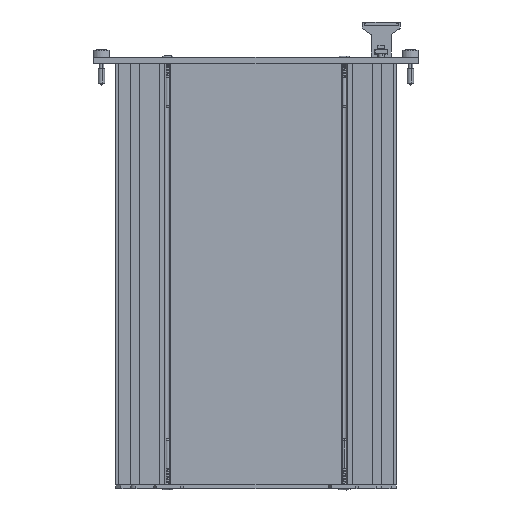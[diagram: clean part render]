
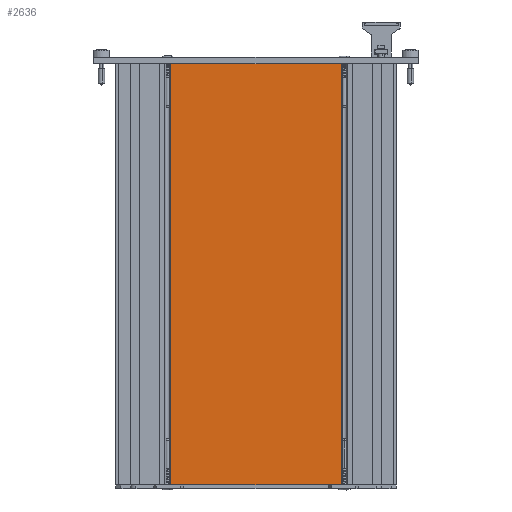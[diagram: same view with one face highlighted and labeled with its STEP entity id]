
A CAD part, left-side view. The second image highlights one B-rep face of the part: STEP entity #2636.
In plain terms, the highlighted planar face has unit normal (-1, 0, 0) as drawn and (0, 1, 0) by its records, which use the part's own axes.
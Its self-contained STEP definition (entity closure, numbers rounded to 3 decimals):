
#1540 = FACE_OUTER_BOUND ( 'NONE', #2025, .T. ) ;
#2025 = EDGE_LOOP ( 'NONE', ( #30623, #36381, #4071, #32341 ) ) ;
#2559 = EDGE_CURVE ( 'NONE', #8761, #32517, #13988, .T. ) ;
#2636 = ADVANCED_FACE ( 'NONE', ( #1540 ), #25987, .F. ) ;
#3135 = EDGE_CURVE ( 'NONE', #9103, #8407, #32726, .T. ) ;
#3200 = DIRECTION ( 'NONE',  ( 0., 0., -1. ) ) ;
#4071 = ORIENTED_EDGE ( 'NONE', *, *, #22570, .F. ) ;
#6095 = VECTOR ( 'NONE', #31614, 1000. ) ;
#6241 = CARTESIAN_POINT ( 'NONE',  ( 2663.589, 1924.192, 83.5 ) ) ;
#7749 = VECTOR ( 'NONE', #3200, 1000. ) ;
#8037 = CARTESIAN_POINT ( 'NONE',  ( 2663.589, 1924.192, -83.5 ) ) ;
#8407 = VERTEX_POINT ( 'NONE', #8037 ) ;
#8761 = VERTEX_POINT ( 'NONE', #34989 ) ;
#9103 = VERTEX_POINT ( 'NONE', #25444 ) ;
#11178 = DIRECTION ( 'NONE',  ( -1., 0., 0. ) ) ;
#13988 = LINE ( 'NONE', #28754, #7749 ) ;
#14639 = DIRECTION ( 'NONE',  ( 0., 0., -1. ) ) ;
#15923 = LINE ( 'NONE', #36850, #6095 ) ;
#16220 = VECTOR ( 'NONE', #11178, 1000. ) ;
#20327 = DIRECTION ( 'NONE',  ( 0., 0., -1. ) ) ;
#22570 = EDGE_CURVE ( 'NONE', #8761, #9103, #15923, .T. ) ;
#25379 = CARTESIAN_POINT ( 'NONE',  ( 2731.062, 1924.192, -83.5 ) ) ;
#25444 = CARTESIAN_POINT ( 'NONE',  ( 2663.589, 1924.192, 83.5 ) ) ;
#25549 = CARTESIAN_POINT ( 'NONE',  ( 2731.062, 1924.192, -83.5 ) ) ;
#25621 = DIRECTION ( 'NONE',  ( 0., -1., 0. ) ) ;
#25987 = PLANE ( 'NONE',  #27086 ) ;
#27086 = AXIS2_PLACEMENT_3D ( 'NONE', #34130, #25621, #14639 ) ;
#28754 = CARTESIAN_POINT ( 'NONE',  ( 2731.062, 1924.192, 83.5 ) ) ;
#30623 = ORIENTED_EDGE ( 'NONE', *, *, #33178, .T. ) ;
#31407 = VECTOR ( 'NONE', #20327, 1000. ) ;
#31614 = DIRECTION ( 'NONE',  ( -1., 0., 0. ) ) ;
#32341 = ORIENTED_EDGE ( 'NONE', *, *, #2559, .T. ) ;
#32517 = VERTEX_POINT ( 'NONE', #25549 ) ;
#32726 = LINE ( 'NONE', #6241, #31407 ) ;
#32755 = LINE ( 'NONE', #25379, #16220 ) ;
#33178 = EDGE_CURVE ( 'NONE', #32517, #8407, #32755, .T. ) ;
#34130 = CARTESIAN_POINT ( 'NONE',  ( 2731.062, 1924.192, 83.5 ) ) ;
#34989 = CARTESIAN_POINT ( 'NONE',  ( 2731.062, 1924.192, 83.5 ) ) ;
#36381 = ORIENTED_EDGE ( 'NONE', *, *, #3135, .F. ) ;
#36850 = CARTESIAN_POINT ( 'NONE',  ( 2731.062, 1924.192, 83.5 ) ) ;
